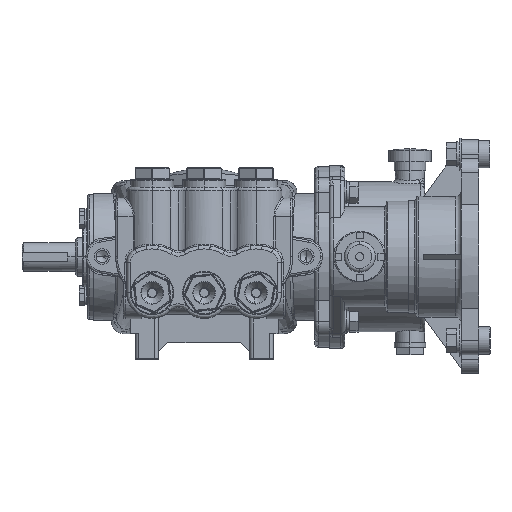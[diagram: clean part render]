
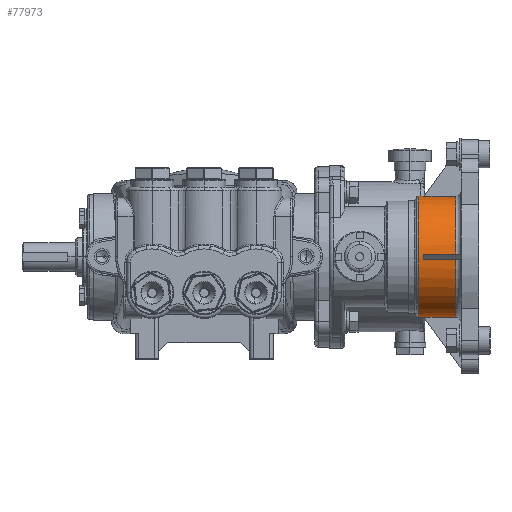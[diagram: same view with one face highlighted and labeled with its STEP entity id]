
A CAD part, top view. The second image highlights one B-rep face of the part: STEP entity #77973.
In plain terms, the highlighted cylindrical face has radius 42.164 mm (diameter 84.328 mm), a partial arc.
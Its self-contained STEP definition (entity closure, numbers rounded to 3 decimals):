
#389 = ORIENTED_EDGE ( 'NONE', *, *, #20045, .F. ) ;
#2840 = EDGE_CURVE ( 'NONE', #29249, #47393, #3195, .T. ) ;
#3034 = VECTOR ( 'NONE', #75944, 1000. ) ;
#3195 =( BOUNDED_CURVE ( )  B_SPLINE_CURVE ( 3, ( #18947, #34272, #33309, #11350 ),
 .UNSPECIFIED., .F., .T. ) 
 B_SPLINE_CURVE_WITH_KNOTS ( ( 4, 4 ),
 ( 6.241, 6.283 ),
 .UNSPECIFIED. ) 
 CURVE ( )  GEOMETRIC_REPRESENTATION_ITEM ( )  RATIONAL_B_SPLINE_CURVE ( ( 1., 1., 1., 1. ) ) 
 REPRESENTATION_ITEM ( '' )  );
#3282 = DIRECTION ( 'NONE',  ( 0., -1., 0. ) ) ;
#3640 = CARTESIAN_POINT ( 'NONE',  ( -1.778, 43.307, 42.126 ) ) ;
#4893 = CARTESIAN_POINT ( 'NONE',  ( -1.778, 38.16, -42.126 ) ) ;
#5672 = CARTESIAN_POINT ( 'NONE',  ( 0., 42.037, 0. ) ) ;
#7712 = CIRCLE ( 'NONE', #83739, 42.164 ) ;
#7926 = ORIENTED_EDGE ( 'NONE', *, *, #59703, .T. ) ;
#7950 = CARTESIAN_POINT ( 'NONE',  ( -42.126, 43.307, -1.778 ) ) ;
#9002 = EDGE_CURVE ( 'NONE', #78923, #61151, #53324, .T. ) ;
#10288 = LINE ( 'NONE', #3640, #61631 ) ;
#10574 = CARTESIAN_POINT ( 'NONE',  ( 0., 43.307, -42.164 ) ) ;
#11261 = EDGE_CURVE ( 'NONE', #28321, #64217, #7712, .T. ) ;
#11350 = CARTESIAN_POINT ( 'NONE',  ( 0., 38.133, -42.164 ) ) ;
#11598 = DIRECTION ( 'NONE',  ( 0., -1., 0. ) ) ;
#11694 = VECTOR ( 'NONE', #86787, 1000. ) ;
#12123 = DIRECTION ( 'NONE',  ( 0., 0., 1. ) ) ;
#12949 = VERTEX_POINT ( 'NONE', #78842 ) ;
#13818 = ORIENTED_EDGE ( 'NONE', *, *, #9002, .T. ) ;
#15137 = FACE_OUTER_BOUND ( 'NONE', #84149, .T. ) ;
#17065 = VECTOR ( 'NONE', #86784, 1000. ) ;
#18809 = DIRECTION ( 'NONE',  ( 0., -1., 0. ) ) ;
#18947 = CARTESIAN_POINT ( 'NONE',  ( -1.778, 38.16, -42.126 ) ) ;
#19209 = DIRECTION ( 'NONE',  ( 0., 0., -1. ) ) ;
#19390 = CARTESIAN_POINT ( 'NONE',  ( -1.778, 15.926, 42.126 ) ) ;
#19429 = DIRECTION ( 'NONE',  ( 0., 1., 0. ) ) ;
#19679 = CARTESIAN_POINT ( 'NONE',  ( -42.126, 15.926, 1.778 ) ) ;
#20045 = EDGE_CURVE ( 'NONE', #37621, #12949, #60697, .T. ) ;
#20336 = CARTESIAN_POINT ( 'NONE',  ( 0., 38.133, 42.164 ) ) ;
#21316 = CARTESIAN_POINT ( 'NONE',  ( -1.778, 15.926, -42.126 ) ) ;
#22799 = ORIENTED_EDGE ( 'NONE', *, *, #61706, .T. ) ;
#23448 = CARTESIAN_POINT ( 'NONE',  ( -42.126, 38.16, -1.778 ) ) ;
#25995 = EDGE_CURVE ( 'NONE', #46116, #28321, #59119, .T. ) ;
#27934 = CARTESIAN_POINT ( 'NONE',  ( -1.186, 38.142, 42.151 ) ) ;
#28321 = VERTEX_POINT ( 'NONE', #19679 ) ;
#28331 = AXIS2_PLACEMENT_3D ( 'NONE', #5672, #93733, #56634 ) ;
#29249 = VERTEX_POINT ( 'NONE', #4893 ) ;
#30932 = ORIENTED_EDGE ( 'NONE', *, *, #67628, .F. ) ;
#31653 = VECTOR ( 'NONE', #3282, 1000. ) ;
#32042 = CARTESIAN_POINT ( 'NONE',  ( 0., 42.037, 42.164 ) ) ;
#32205 = CARTESIAN_POINT ( 'NONE',  ( 0., 38.133, 42.164 ) ) ;
#33309 = CARTESIAN_POINT ( 'NONE',  ( -0.593, 38.133, -42.164 ) ) ;
#33340 = ORIENTED_EDGE ( 'NONE', *, *, #11261, .T. ) ;
#34272 = CARTESIAN_POINT ( 'NONE',  ( -1.186, 38.142, -42.151 ) ) ;
#35494 = VERTEX_POINT ( 'NONE', #62665 ) ;
#37621 = VERTEX_POINT ( 'NONE', #32205 ) ;
#38672 = ORIENTED_EDGE ( 'NONE', *, *, #25995, .T. ) ;
#41569 = CIRCLE ( 'NONE', #73614, 42.164 ) ;
#42456 = ORIENTED_EDGE ( 'NONE', *, *, #56442, .F. ) ;
#43056 = EDGE_CURVE ( 'NONE', #46116, #71508, #79937, .T. ) ;
#46116 = VERTEX_POINT ( 'NONE', #84228 ) ;
#46887 = CARTESIAN_POINT ( 'NONE',  ( 0., 43.307, 42.164 ) ) ;
#47072 = ORIENTED_EDGE ( 'NONE', *, *, #2840, .F. ) ;
#47393 = VERTEX_POINT ( 'NONE', #88855 ) ;
#47848 = ORIENTED_EDGE ( 'NONE', *, *, #63857, .T. ) ;
#53324 = CIRCLE ( 'NONE', #28331, 42.164 ) ;
#56205 = CARTESIAN_POINT ( 'NONE',  ( 0., 43.307, 0. ) ) ;
#56442 = EDGE_CURVE ( 'NONE', #78923, #37621, #70532, .T. ) ;
#56473 = AXIS2_PLACEMENT_3D ( 'NONE', #56205, #11598, #19209 ) ;
#56634 = DIRECTION ( 'NONE',  ( 0., 0., 1. ) ) ;
#59119 = LINE ( 'NONE', #62551, #87778 ) ;
#59703 = EDGE_CURVE ( 'NONE', #73792, #35494, #41569, .T. ) ;
#60697 =( BOUNDED_CURVE ( )  B_SPLINE_CURVE ( 3, ( #20336, #71677, #27934, #78765 ),
 .UNSPECIFIED., .F., .T. ) 
 B_SPLINE_CURVE_WITH_KNOTS ( ( 4, 4 ),
 ( 0., 0.042 ),
 .UNSPECIFIED. ) 
 CURVE ( )  GEOMETRIC_REPRESENTATION_ITEM ( )  RATIONAL_B_SPLINE_CURVE ( ( 1., 1., 1., 1. ) ) 
 REPRESENTATION_ITEM ( '' )  );
#61109 = CARTESIAN_POINT ( 'NONE',  ( -42.126, 38.16, 1.778 ) ) ;
#61151 = VERTEX_POINT ( 'NONE', #86135 ) ;
#61631 = VECTOR ( 'NONE', #62558, 1000. ) ;
#61681 = ORIENTED_EDGE ( 'NONE', *, *, #73764, .F. ) ;
#61706 = EDGE_CURVE ( 'NONE', #29249, #73792, #90221, .T. ) ;
#62551 = CARTESIAN_POINT ( 'NONE',  ( -42.126, 43.307, 1.778 ) ) ;
#62558 = DIRECTION ( 'NONE',  ( 0., -1., 0. ) ) ;
#62665 = CARTESIAN_POINT ( 'NONE',  ( -42.126, 15.926, -1.778 ) ) ;
#63857 = EDGE_CURVE ( 'NONE', #61151, #47393, #82875, .T. ) ;
#64217 = VERTEX_POINT ( 'NONE', #19390 ) ;
#65701 = DIRECTION ( 'NONE',  ( 0., 0., 1. ) ) ;
#67628 = EDGE_CURVE ( 'NONE', #12949, #64217, #10288, .T. ) ;
#70532 = LINE ( 'NONE', #46887, #31653 ) ;
#71508 = VERTEX_POINT ( 'NONE', #92052 ) ;
#71677 = CARTESIAN_POINT ( 'NONE',  ( -0.593, 38.133, 42.164 ) ) ;
#72155 = ORIENTED_EDGE ( 'NONE', *, *, #43056, .F. ) ;
#72267 = CYLINDRICAL_SURFACE ( 'NONE', #56473, 42.164 ) ;
#73389 = DIRECTION ( 'NONE',  ( 0., 1., 0. ) ) ;
#73614 = AXIS2_PLACEMENT_3D ( 'NONE', #79514, #73389, #65701 ) ;
#73764 = EDGE_CURVE ( 'NONE', #71508, #35494, #76729, .T. ) ;
#73792 = VERTEX_POINT ( 'NONE', #21316 ) ;
#75944 = DIRECTION ( 'NONE',  ( 0., -1., 0. ) ) ;
#76729 = LINE ( 'NONE', #7950, #11694 ) ;
#77973 = ADVANCED_FACE ( 'NONE', ( #15137 ), #72267, .T. ) ;
#78765 = CARTESIAN_POINT ( 'NONE',  ( -1.778, 38.16, 42.126 ) ) ;
#78842 = CARTESIAN_POINT ( 'NONE',  ( -1.778, 38.16, 42.126 ) ) ;
#78923 = VERTEX_POINT ( 'NONE', #32042 ) ;
#79107 = CARTESIAN_POINT ( 'NONE',  ( -1.778, 43.307, -42.126 ) ) ;
#79514 = CARTESIAN_POINT ( 'NONE',  ( 0., 15.926, 0. ) ) ;
#79937 =( BOUNDED_CURVE ( )  B_SPLINE_CURVE ( 3, ( #61109, #90236, #90555, #23448 ),
 .UNSPECIFIED., .F., .T. ) 
 B_SPLINE_CURVE_WITH_KNOTS ( ( 4, 4 ),
 ( 6.241, 6.325 ),
 .UNSPECIFIED. ) 
 CURVE ( )  GEOMETRIC_REPRESENTATION_ITEM ( )  RATIONAL_B_SPLINE_CURVE ( ( 1., 0.999, 0.999, 1. ) ) 
 REPRESENTATION_ITEM ( '' )  );
#82875 = LINE ( 'NONE', #10574, #3034 ) ;
#83739 = AXIS2_PLACEMENT_3D ( 'NONE', #92911, #19429, #12123 ) ;
#84149 = EDGE_LOOP ( 'NONE', ( #42456, #13818, #47848, #47072, #22799, #7926, #61681, #72155, #38672, #33340, #30932, #389 ) ) ;
#84228 = CARTESIAN_POINT ( 'NONE',  ( -42.126, 38.16, 1.778 ) ) ;
#86135 = CARTESIAN_POINT ( 'NONE',  ( 0., 42.037, -42.164 ) ) ;
#86784 = DIRECTION ( 'NONE',  ( 0., -1., 0. ) ) ;
#86787 = DIRECTION ( 'NONE',  ( 0., -1., 0. ) ) ;
#87778 = VECTOR ( 'NONE', #18809, 1000. ) ;
#88855 = CARTESIAN_POINT ( 'NONE',  ( 0., 38.133, -42.164 ) ) ;
#90221 = LINE ( 'NONE', #79107, #17065 ) ;
#90236 = CARTESIAN_POINT ( 'NONE',  ( -42.177, 38.124, 0.593 ) ) ;
#90555 = CARTESIAN_POINT ( 'NONE',  ( -42.177, 38.124, -0.593 ) ) ;
#92052 = CARTESIAN_POINT ( 'NONE',  ( -42.126, 38.16, -1.778 ) ) ;
#92911 = CARTESIAN_POINT ( 'NONE',  ( 0., 15.926, 0. ) ) ;
#93733 = DIRECTION ( 'NONE',  ( 0., -1., 0. ) ) ;
